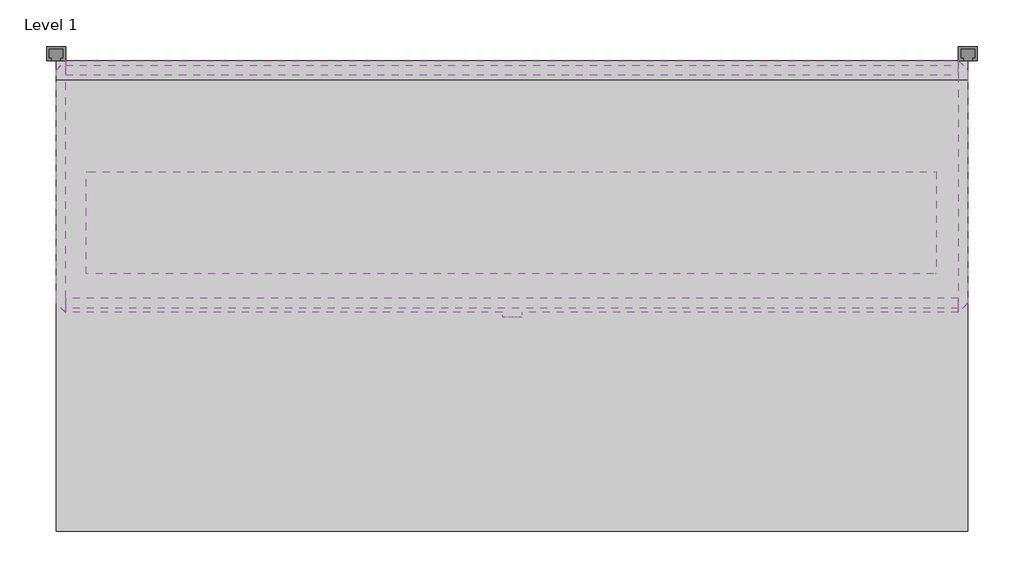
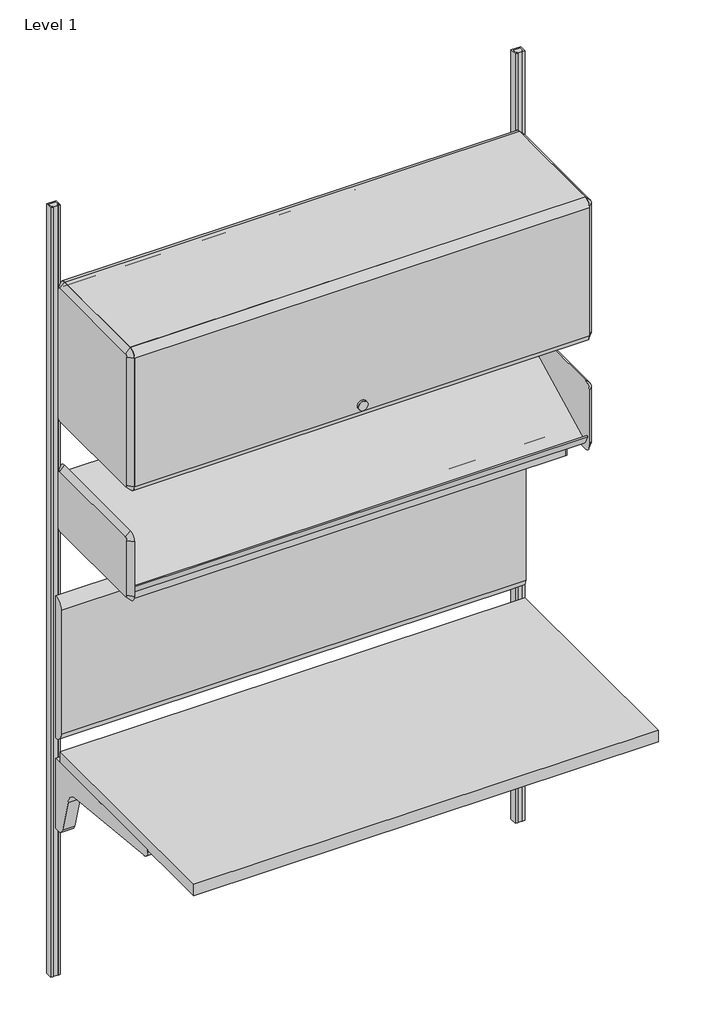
# One storey, incomplete: 7 furniture elements, 1 light fixture.
"""IFC4 building model written with IfcOpenShell, lengths in millimetres."""

from ifc_helpers import new_model, si_unit, origin, place, context, project, spatial, transform, mapped, element, save
from components import furniture_439dfb7c, furniture_083a197f, furniture_793f8ccc, furniture_ebb16344, furniture_8d228605, furniture_ea425779, light_fixture_48w_for_action_office_09e55f13

model = new_model("IFC4")

# Units and contexts
model_context = context("Model", 3, world=origin())
ifc_project = project(units=[si_unit("LENGTHUNIT", "METRE", prefix="MILLI")], contexts=[model_context])

# Site, building, storey
site = spatial("IfcSite", under=ifc_project)
building = spatial("IfcBuilding", under=site)
storey = spatial("IfcBuildingStorey", under=building, Name="Level 1", Elevation=0.0)

# Furniture
placement = place(None, origin())
furniture_shape = furniture_439dfb7c(model_context)
element("IfcFurniture", 1, ObjectType="HermanMiller_ActionOffice_A3220_B-StyleStorageDisplay : Display 13\"D x 48\"W", at=placement, inside=storey, context=model_context, shape_type="MappedRepresentation", body=[
    mapped(furniture_shape, transform((733.5420045, -200.025, 0.0), x_axis=(1.0, 0.0, 0.0), y_axis=(0.0, 1.0, 0.0), z_axis=(0.0, 0.0, 1.0))),
])
furniture_2_shape = furniture_083a197f(model_context)
element("IfcFurniture", 2, ObjectType="HermanMiller_ActionOffice_A2310_Sq-EdgeRectangularWorkSurface : 24\"D x 48\"W", at=placement, inside=storey, context=model_context, shape_type="MappedRepresentation", body=[
    mapped(furniture_2_shape, transform((609.6, -333.375, 0.0), x_axis=(1.0, 0.0, 0.0), y_axis=(0.0, 1.0, 0.0), z_axis=(0.0, 0.0, 1.0))),
])
furniture_3_shape = furniture_793f8ccc(model_context)
element("IfcFurniture", 3, ObjectType="HermanMiller_ActionOffice_A3410_B-StyleTackboard : 16\"H x 48\"W", at=placement, inside=storey, context=model_context, shape_type="MappedRepresentation", body=[
    mapped(furniture_3_shape, transform((609.6, -31.75, 0.0), x_axis=(1.0, 0.0, 0.0), y_axis=(0.0, 1.0, 0.0), z_axis=(0.0, 0.0, 1.0))),
])
furniture_4_shape = furniture_ebb16344(model_context)
element("IfcFurniture", 4, ObjectType="HermanMiller_ActionOffice_B-StyleFlipperDoor : Paint 15-1/2H x 13D x 48W", at=placement, inside=storey, context=model_context, shape_type="MappedRepresentation", body=[
    mapped(furniture_4_shape, transform((609.6, -200.025, 457.2), x_axis=(1.0, 0.0, 0.0), y_axis=(0.0, 1.0, 0.0), z_axis=(0.0, 0.0, 1.0))),
])
furniture_5_shape = furniture_8d228605(model_context)
element("IfcFurniture", 5, ObjectType="HermanMiller_CoStruc_B-StyleShelf : 15-1/2H x 13D x 48W", at=placement, inside=storey, context=model_context, shape_type="MappedRepresentation", body=[
    mapped(furniture_5_shape, transform((733.5420045, -200.025, 457.2), x_axis=(1.0, 0.0, 0.0), y_axis=(0.0, 1.0, 0.0), z_axis=(0.0, 0.0, 1.0))),
])
furniture_6_shape = furniture_ea425779(model_context)
element("IfcFurniture", 6, ObjectType="HermanMiller_ActionOffice_AO213_WallStrip : 84\"H", at=placement, inside=storey, context=model_context, shape_type="MappedRepresentation", body=[
    mapped(furniture_6_shape, transform((1219.1590103, 0.0, 0.0), x_axis=(1.0, 0.0, 0.0), y_axis=(0.0, 1.0, 0.0), z_axis=(0.0, 0.0, 1.0))),
])
element("IfcFurniture", 7, ObjectType="HermanMiller_ActionOffice_AO213_WallStrip : 84\"H", at=placement, inside=storey, context=model_context, shape_type="MappedRepresentation", body=[
    mapped(furniture_6_shape, transform((0.0, 0.0, 0.0), x_axis=(1.0, 0.0, 0.0), y_axis=(0.0, 1.0, 0.0), z_axis=(0.0, 0.0, 1.0))),
])

# Light fixture
light_fixture_48w_for_action_office_shape = light_fixture_48w_for_action_office_09e55f13(model_context)
element("IfcLightFixture", 8, ObjectType="HermanMiller_SupplementalProducts_G6170_EUnderShelfLEDTaskLight : 48W for Action Office", at=placement, inside=storey, context=model_context, shape_type="MappedRepresentation", body=[
    mapped(light_fixture_48w_for_action_office_shape, transform((608.51288, -235.7290272, 124.8679666), x_axis=(1.0, 0.0, 0.0), y_axis=(0.0, 1.0, 0.0), z_axis=(0.0, 0.0, 1.0))),
])

save(model, "model.ifc")
